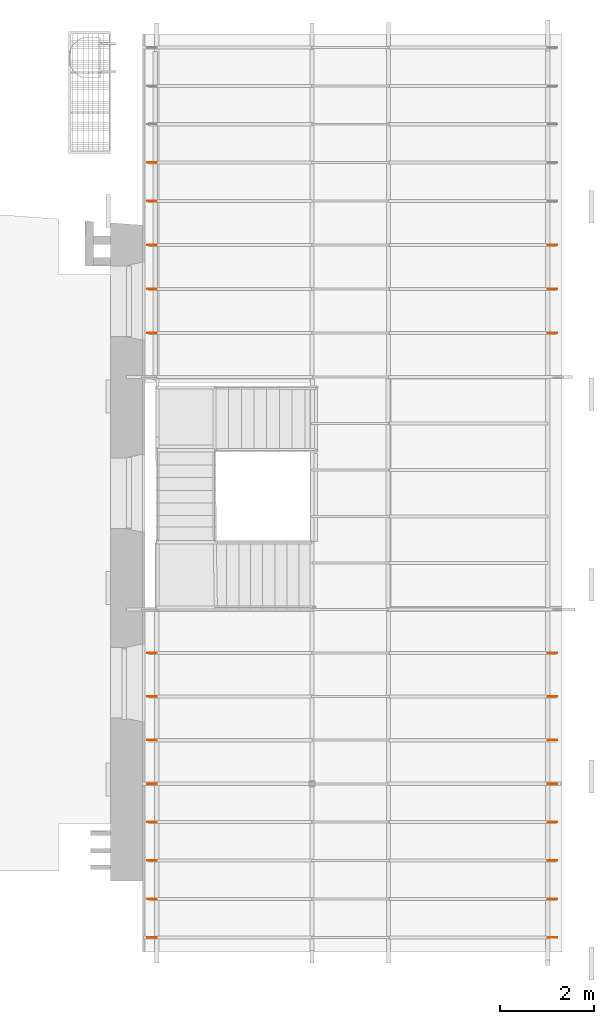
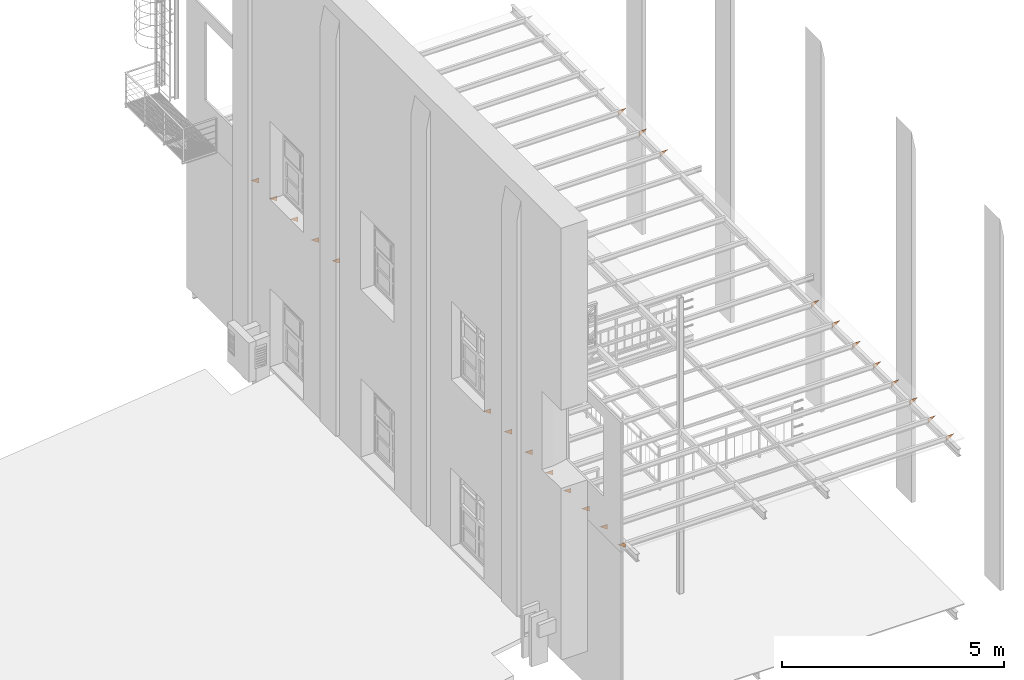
# One storey, part 32 of 33: 24 proxies.
"""IFC2X3 building model written with IfcOpenShell, lengths in metres."""

from ifc_helpers import new_model, entity, si_unit, converted_unit, derived_unit, direction, frame, origin, place, context, subcontext, project, spatial, polyline, outline, extrude, source, transform, mapped, material, type_object, type_shapes, element, save


model = new_model("IFC2X3")

# Units and contexts
model_context = context("Model", 3, precision=1e-05, world=origin(), true_north=direction((6.12303176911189e-17, 1.0)))
body_context = subcontext(model_context, "Body", "Model", "MODEL_VIEW")
ifc_project = project(units=[si_unit("LENGTHUNIT", "METRE"), si_unit("AREAUNIT", "SQUARE_METRE"), si_unit("VOLUMEUNIT", "CUBIC_METRE"), converted_unit("PLANEANGLEUNIT", "DEGREE", entity("IfcRatioMeasure", 0.0174532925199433), si_unit("PLANEANGLEUNIT", "RADIAN"), dimensions=[0, 0, 0, 0, 0, 0, 0]), si_unit("MASSUNIT", "GRAM", prefix="KILO"), derived_unit("MASSDENSITYUNIT", [(si_unit("MASSUNIT", "GRAM", prefix="KILO"), 1), (si_unit("LENGTHUNIT", "METRE"), -3)]), derived_unit("MOMENTOFINERTIAUNIT", [(si_unit("LENGTHUNIT", "METRE"), 4)]), si_unit("TIMEUNIT", "SECOND"), si_unit("FREQUENCYUNIT", "HERTZ"), si_unit("THERMODYNAMICTEMPERATUREUNIT", "DEGREE_CELSIUS"), derived_unit("THERMALTRANSMITTANCEUNIT", [(si_unit("MASSUNIT", "GRAM", prefix="KILO"), 1), (si_unit("THERMODYNAMICTEMPERATUREUNIT", "KELVIN"), -1), (si_unit("TIMEUNIT", "SECOND"), -3)]), derived_unit("VOLUMETRICFLOWRATEUNIT", [(si_unit("LENGTHUNIT", "METRE"), 3), (si_unit("TIMEUNIT", "SECOND"), -1)]), si_unit("ELECTRICCURRENTUNIT", "AMPERE"), si_unit("ELECTRICVOLTAGEUNIT", "VOLT"), si_unit("POWERUNIT", "WATT"), si_unit("FORCEUNIT", "NEWTON", prefix="KILO"), si_unit("ILLUMINANCEUNIT", "LUX"), si_unit("LUMINOUSFLUXUNIT", "LUMEN"), si_unit("LUMINOUSINTENSITYUNIT", "CANDELA"), derived_unit("USERDEFINED", [(si_unit("MASSUNIT", "GRAM", prefix="KILO"), -1), (si_unit("LENGTHUNIT", "METRE"), -2), (si_unit("TIMEUNIT", "SECOND"), 3), (si_unit("LUMINOUSFLUXUNIT", "LUMEN"), 1)]), derived_unit("LINEARVELOCITYUNIT", [(si_unit("LENGTHUNIT", "METRE"), 1), (si_unit("TIMEUNIT", "SECOND"), -1)]), si_unit("PRESSUREUNIT", "PASCAL"), derived_unit("USERDEFINED", [(si_unit("LENGTHUNIT", "METRE"), -2), (si_unit("MASSUNIT", "GRAM", prefix="KILO"), 1), (si_unit("TIMEUNIT", "SECOND"), -2)]), derived_unit("LINEARFORCEUNIT", [(si_unit("MASSUNIT", "GRAM", prefix="KILO"), 1), (si_unit("LENGTHUNIT", "METRE"), 1), (si_unit("TIMEUNIT", "SECOND"), -2), (si_unit("LENGTHUNIT", "METRE"), -1)]), derived_unit("PLANARFORCEUNIT", [(si_unit("MASSUNIT", "GRAM", prefix="KILO"), 1), (si_unit("LENGTHUNIT", "METRE"), 1), (si_unit("TIMEUNIT", "SECOND"), -2), (si_unit("LENGTHUNIT", "METRE"), -2)])], contexts=[model_context])

# Site, building, storey
site_placement = place(None, origin())
site = spatial("IfcSite", under=ifc_project, at=site_placement, Name="Superficie", CompositionType="ELEMENT")
building_placement = place(site_placement, origin())
building = spatial("IfcBuilding", under=site, at=building_placement, Name="Telegestiones", CompositionType="ELEMENT")
storey_placement = place(building_placement, frame((0.0, 0.0, 4.94)))
storey = spatial("IfcBuildingStorey", under=building, at=storey_placement, Name="Nivel 1_NPT", CompositionType="ELEMENT", Elevation=4.94)

# Proxies
ifc_material = material(Name="Metal-Acero")
building_element_proxy_type = type_object("IfcBuildingElementProxyType", Name="EST-PERF-Ace:EST-PERF-Ace", PredefinedType="NOTDEFINED", material=ifc_material)
shared_shape = source(origin(), body_context, "Body", "SweptSolid", [
    extrude(outline(polyline([(-0.108138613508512, -0.0382308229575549), (0.13599249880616, -0.0382308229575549), (-0.0278538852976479, 0.0764616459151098), (-0.108138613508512, -0.0382308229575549)])), frame((-0.005, 0.0666666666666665, -0.0877497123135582), z_axis=(1.0, 0.0, 0.0), x_axis=(0.0, 0.819231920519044, 0.573462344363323)), (0.0, 0.0, 1.0), 0.00999999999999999),
])
type_shapes(building_element_proxy_type, [shared_shape])
for number, where, z_axis, x_axis, name in (
    (1, (6.33481262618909, 7.37460722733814, 4.56), (0.0, 0.0, 1.0), (0.0, 1.0, 0.0), "EST-PERF-Ace:EST-PERF-Ace"),
    (2, (6.33481262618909, 8.31360722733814, 4.56), (0.0, 0.0, 1.0), (0.0, 1.0, 0.0), "EST-PERF-Ace:EST-PERF-Ace"),
    (3, (6.33481262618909, 9.25260722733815, 4.56), (0.0, 0.0, 1.0), (0.0, 1.0, 0.0), "EST-PERF-Ace:EST-PERF-Ace"),
    (4, (6.33481262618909, 10.1916072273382, 4.56), (0.0, 0.0, 1.0), (0.0, 1.0, 0.0), "EST-PERF-Ace:EST-PERF-Ace"),
    (5, (6.33481262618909, 11.0071072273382, 4.56), (0.0, 0.0, 1.0), (0.0, 1.0, 0.0), "EST-PERF-Ace:EST-PERF-Ace"),
    (6, (6.33481262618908, 0.556847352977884, 4.56), (0.0, 0.0, 1.0), (0.0, 1.0, 0.0), "EST-PERF-Ace:EST-PERF-Ace"),
    (7, (6.33481262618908, -0.370899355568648, 4.56), (0.0, 0.0, 1.0), (0.0, 1.0, 0.0), "EST-PERF-Ace:EST-PERF-Ace"),
    (8, (6.33481262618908, -1.29864606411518, 4.56), (0.0, 0.0, 1.0), (0.0, 1.0, 0.0), "EST-PERF-Ace:EST-PERF-Ace"),
    (9, (6.33481262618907, -2.22639277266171, 4.56), (0.0, 0.0, 1.0), (0.0, 1.0, 0.0), "EST-PERF-Ace:EST-PERF-Ace"),
    (10, (6.33481262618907, -3.04414277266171, 4.56), (0.0, 0.0, 1.0), (0.0, 1.0, 0.0), "EST-PERF-Ace:EST-PERF-Ace"),
    (11, (6.33481262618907, -3.86189277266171, 4.56), (0.0, 0.0, 1.0), (0.0, 1.0, 0.0), "EST-PERF-Ace:EST-PERF-Ace"),
    (12, (6.33481262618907, -4.6796427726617, 4.56), (0.0, 0.0, 1.0), (0.0, 1.0, 0.0), "EST-PERF-Ace:EST-PERF-Ace"),
    (13, (6.33481262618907, -5.4973927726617, 4.56), (0.0, 0.0, 1.0), (0.0, 1.0, 0.0), "EST-PERF-Ace:EST-PERF-Ace"),
    (14, (14.6648126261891, -5.49739277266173, 4.56), (0.0, 0.0, 1.0), (0.0, -1.0, 0.0), "EST-PERF-Ace:EST-PERF-Ace"),
    (15, (14.6648126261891, -4.67964277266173, 4.56), (0.0, 0.0, 1.0), (0.0, -1.0, 0.0), "EST-PERF-Ace:EST-PERF-Ace"),
    (16, (14.6648126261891, -3.86189277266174, 4.56), (0.0, 0.0, 1.0), (0.0, -1.0, 0.0), "EST-PERF-Ace:EST-PERF-Ace"),
    (17, (14.6648126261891, -3.04414277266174, 4.56), (0.0, 0.0, 1.0), (0.0, -1.0, 0.0), "EST-PERF-Ace:EST-PERF-Ace"),
    (18, (14.6648126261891, -2.22639277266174, 4.56), (0.0, 0.0, 1.0), (0.0, -1.0, 0.0), "EST-PERF-Ace:EST-PERF-Ace"),
    (19, (14.6648126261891, -1.29864606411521, 4.56), (0.0, 0.0, 1.0), (0.0, -1.0, 0.0), "EST-PERF-Ace:EST-PERF-Ace"),
    (20, (14.6648126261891, -0.370899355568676, 4.56), (0.0, 0.0, 1.0), (0.0, -1.0, 0.0), "EST-PERF-Ace:EST-PERF-Ace"),
    (21, (14.6648126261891, 0.556847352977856, 4.56), (0.0, 0.0, 1.0), (0.0, -1.0, 0.0), "EST-PERF-Ace:EST-PERF-Ace"),
    (22, (14.6648126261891, 7.37460722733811, 4.56), (0.0, 0.0, 1.0), (0.0, -1.0, 0.0), "EST-PERF-Ace:EST-PERF-Ace"),
    (23, (14.6648126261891, 8.31360722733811, 4.56), (0.0, 0.0, 1.0), (0.0, -1.0, 0.0), "EST-PERF-Ace:EST-PERF-Ace"),
    (24, (14.6648126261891, 9.25260722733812, 4.56), (0.0, 0.0, 1.0), (0.0, -1.0, 0.0), "EST-PERF-Ace:EST-PERF-Ace"),
):
    element("IfcBuildingElementProxy", number, at=place(storey_placement, frame(where, z_axis=z_axis, x_axis=x_axis)), inside=storey, type_object=building_element_proxy_type, material=ifc_material, Name=name, ObjectType="EST-PERF-Ace:EST-PERF-Ace", context=body_context, shape_type="MappedRepresentation", body=[
        mapped(shared_shape, transform((0.0, 0.0, 0.0), scale=1.0)),
    ])

save(model, "model.ifc")
